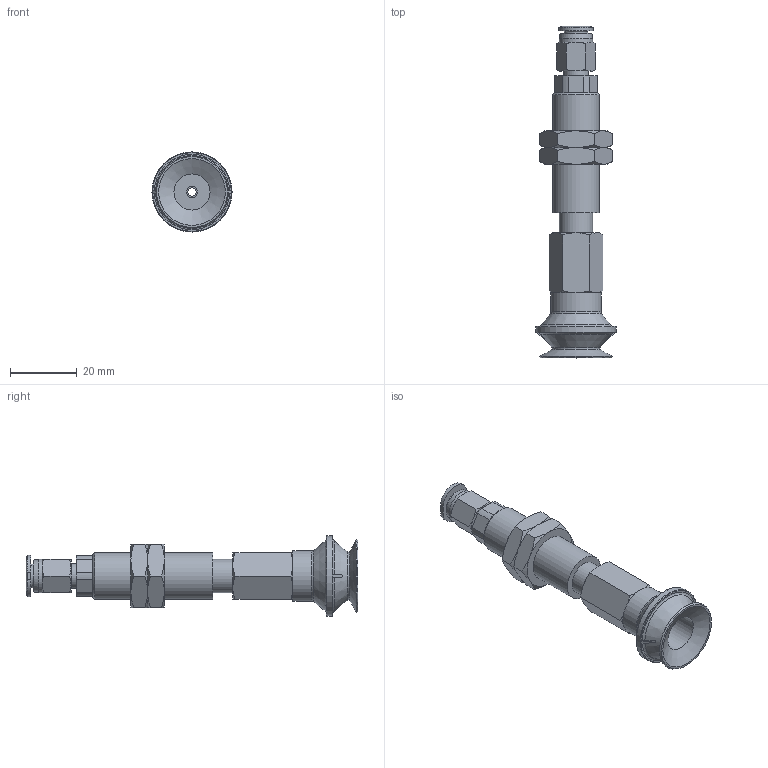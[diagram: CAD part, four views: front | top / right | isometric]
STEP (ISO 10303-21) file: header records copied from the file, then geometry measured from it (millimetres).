
FILE_DESCRIPTION(('STEP AP203'),'1');
FILE_NAME('-O.stp','2025-08-27T01:13:22',(' '),(' '),'Spatial InterOp 3D',' ',' ');
FILE_SCHEMA(('CONFIG_CONTROL_DESIGN'));
Length unit declared in the file: millimetre
Products named in the file (8): BNABPBTS-20-6-※-O; ADAPTER; NAPBTS-20-6--M; Adapter20-T-NAPB; Nut-20-S-PB; NAPBTS-20-6--F; BPBG-20-※; PC-C_06-M5
Assembly tree (8 placements, depth 2):
  BNABPBTS-20-6-※-O
    ADAPTER
    NAPBTS-20-6--M
    Adapter20-T-NAPB
    Nut-20-S-PB  x2
    NAPBTS-20-6--F
    BPBG-20-※
    PC-C_06-M5
Bounding box: 24 x 99.48 x 24 mm (x, y, z)
Volume: 14413.9 mm3; surface area: 12246.9 mm2
Topology: 7 solids, 10 shells, 190 faces, 404 edges, 246 vertices
Faces by surface type: plane 74, cone 67, cylinder 31, torus 11, bspline 4, revolution 3
Full cylindrical faces by diameter (mm): 2.5 x1, 3 x2, 4 x2, 4.134 x2, 4.6 x1, 5 x2, 7 x1, 7.4 x1, 8.2 x1, 10 x3, 10.8 x1, 11 x1, 12.917 x2, 14 x1, 15 x1, 24 x1
Entity records: 5038 total; most frequent: CARTESIAN_POINT 1365, DIRECTION 693, ORIENTED_EDGE 590, AXIS2_PLACEMENT_3D 303, EDGE_CURVE 297, EDGE_LOOP 242, VERTEX_POINT 207, FACE_OUTER_BOUND 138
